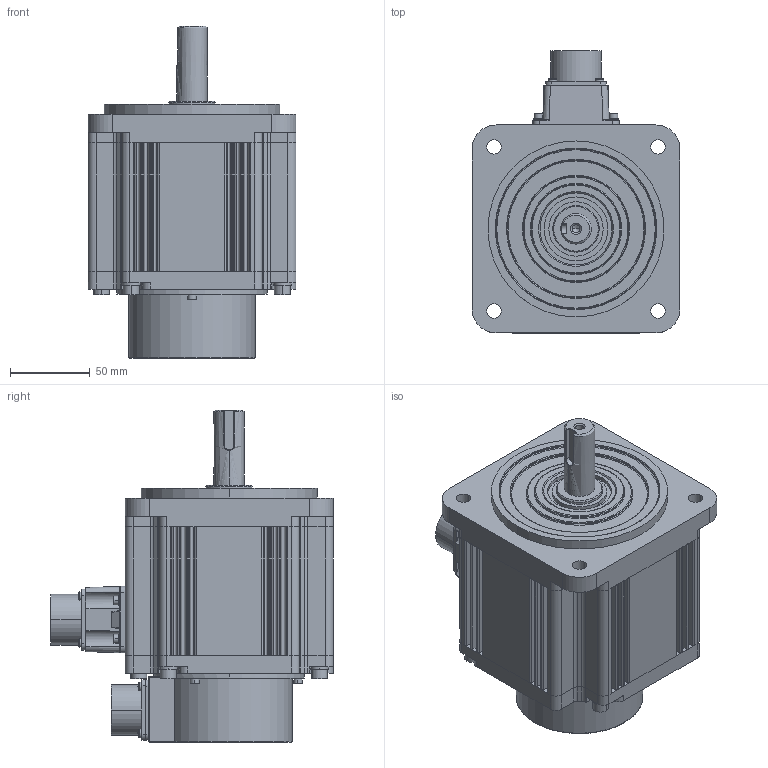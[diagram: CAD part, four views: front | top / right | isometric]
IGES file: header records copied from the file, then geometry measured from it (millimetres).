
Start section:  PTC IGES file: ECMA-FX1308R9.igs
Global section: file name: ECMA-FX1308R9.igs; native system: Pro/ENGINEER by Parametric Technology Corporation; preprocessor: 2010180; author: MIO.CHEN; organization: Unknown; date: 20160607.152920; units: millimetre
Bounding box: 130 x 176.44 x 207.5 mm (x, y, z)
Volume: 2003061.3 mm3; surface area: 141474.5 mm2
Topology: 1 solids, 1 shells, 673 faces, 1607 edges, 971 vertices
Faces by surface type: revolution 394, bspline 279
